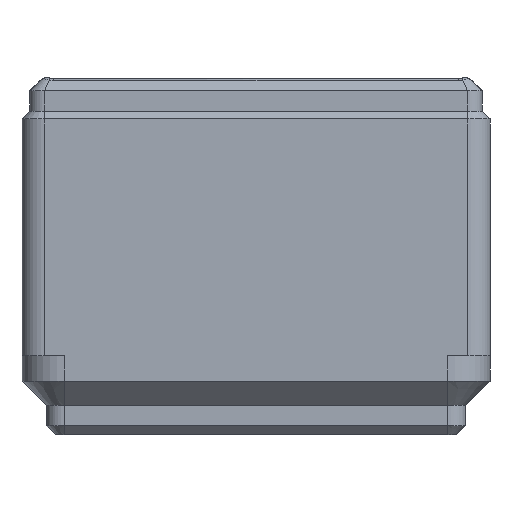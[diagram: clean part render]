
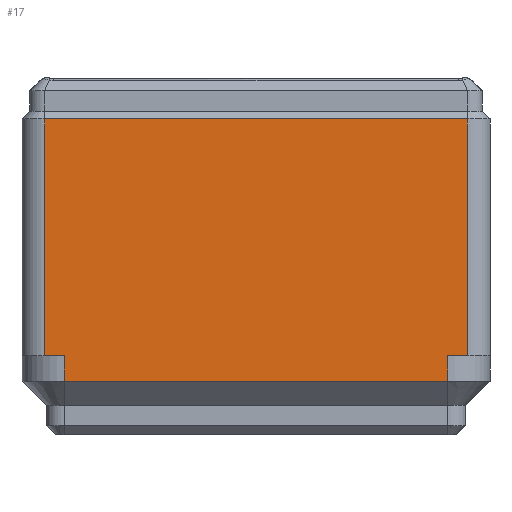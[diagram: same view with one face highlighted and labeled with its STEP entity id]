
A CAD part, left-side view. The second image highlights one B-rep face of the part: STEP entity #17.
In plain terms, the highlighted planar face has unit normal (-1, 0, 0).
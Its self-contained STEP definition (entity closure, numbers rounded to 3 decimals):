
#17 = ADVANCED_FACE('',(#18),#32,.T.);
#18 = FACE_BOUND('',#19,.T.);
#19 = EDGE_LOOP('',(#20,#55,#83,#111,#139,#167,#195,#223));
#20 = ORIENTED_EDGE('',*,*,#21,.T.);
#21 = EDGE_CURVE('',#22,#24,#26,.T.);
#22 = VERTEX_POINT('',#23);
#23 = CARTESIAN_POINT('',(0.,2.,7.));
#24 = VERTEX_POINT('',#25);
#25 = CARTESIAN_POINT('',(0.,2.,28.));
#26 = SURFACE_CURVE('',#27,(#31,#43),.PCURVE_S1.);
#27 = LINE('',#28,#29);
#28 = CARTESIAN_POINT('',(0.,2.,7.));
#29 = VECTOR('',#30,1.);
#30 = DIRECTION('',(0.,0.,1.));
#31 = PCURVE('',#32,#37);
#32 = PLANE('',#33);
#33 = AXIS2_PLACEMENT_3D('',#34,#35,#36);
#34 = CARTESIAN_POINT('',(0.,2.,7.));
#35 = DIRECTION('',(-1.,0.,0.));
#36 = DIRECTION('',(0.,1.,0.));
#37 = DEFINITIONAL_REPRESENTATION('',(#38),#42);
#38 = LINE('',#39,#40);
#39 = CARTESIAN_POINT('',(0.,0.));
#40 = VECTOR('',#41,1.);
#41 = DIRECTION('',(0.,-1.));
#42 = ( GEOMETRIC_REPRESENTATION_CONTEXT(2) 
PARAMETRIC_REPRESENTATION_CONTEXT() REPRESENTATION_CONTEXT('2D SPACE',''
  ) );
#43 = PCURVE('',#44,#49);
#44 = CYLINDRICAL_SURFACE('',#45,2.);
#45 = AXIS2_PLACEMENT_3D('',#46,#47,#48);
#46 = CARTESIAN_POINT('',(2.,2.,7.));
#47 = DIRECTION('',(-0.,-0.,-1.));
#48 = DIRECTION('',(1.,0.,0.));
#49 = DEFINITIONAL_REPRESENTATION('',(#50),#54);
#50 = LINE('',#51,#52);
#51 = CARTESIAN_POINT('',(-3.142,0.));
#52 = VECTOR('',#53,1.);
#53 = DIRECTION('',(-0.,-1.));
#54 = ( GEOMETRIC_REPRESENTATION_CONTEXT(2) 
PARAMETRIC_REPRESENTATION_CONTEXT() REPRESENTATION_CONTEXT('2D SPACE',''
  ) );
#55 = ORIENTED_EDGE('',*,*,#56,.T.);
#56 = EDGE_CURVE('',#24,#57,#59,.T.);
#57 = VERTEX_POINT('',#58);
#58 = CARTESIAN_POINT('',(0.,39.5,28.));
#59 = SURFACE_CURVE('',#60,(#64,#71),.PCURVE_S1.);
#60 = LINE('',#61,#62);
#61 = CARTESIAN_POINT('',(0.,20.75,28.));
#62 = VECTOR('',#63,1.);
#63 = DIRECTION('',(0.,1.,0.));
#64 = PCURVE('',#32,#65);
#65 = DEFINITIONAL_REPRESENTATION('',(#66),#70);
#66 = LINE('',#67,#68);
#67 = CARTESIAN_POINT('',(18.75,-21.));
#68 = VECTOR('',#69,1.);
#69 = DIRECTION('',(1.,0.));
#70 = ( GEOMETRIC_REPRESENTATION_CONTEXT(2) 
PARAMETRIC_REPRESENTATION_CONTEXT() REPRESENTATION_CONTEXT('2D SPACE',''
  ) );
#71 = PCURVE('',#72,#77);
#72 = PLANE('',#73);
#73 = AXIS2_PLACEMENT_3D('',#74,#75,#76);
#74 = CARTESIAN_POINT('',(0.7,20.75,28.7));
#75 = DIRECTION('',(-0.707,0.,0.707));
#76 = DIRECTION('',(-0.,-1.,0.));
#77 = DEFINITIONAL_REPRESENTATION('',(#78),#82);
#78 = LINE('',#79,#80);
#79 = CARTESIAN_POINT('',(0.,-0.99));
#80 = VECTOR('',#81,1.);
#81 = DIRECTION('',(-1.,0.));
#82 = ( GEOMETRIC_REPRESENTATION_CONTEXT(2) 
PARAMETRIC_REPRESENTATION_CONTEXT() REPRESENTATION_CONTEXT('2D SPACE',''
  ) );
#83 = ORIENTED_EDGE('',*,*,#84,.F.);
#84 = EDGE_CURVE('',#85,#57,#87,.T.);
#85 = VERTEX_POINT('',#86);
#86 = CARTESIAN_POINT('',(0.,39.5,7.));
#87 = SURFACE_CURVE('',#88,(#92,#99),.PCURVE_S1.);
#88 = LINE('',#89,#90);
#89 = CARTESIAN_POINT('',(0.,39.5,7.));
#90 = VECTOR('',#91,1.);
#91 = DIRECTION('',(0.,0.,1.));
#92 = PCURVE('',#32,#93);
#93 = DEFINITIONAL_REPRESENTATION('',(#94),#98);
#94 = LINE('',#95,#96);
#95 = CARTESIAN_POINT('',(37.5,0.));
#96 = VECTOR('',#97,1.);
#97 = DIRECTION('',(0.,-1.));
#98 = ( GEOMETRIC_REPRESENTATION_CONTEXT(2) 
PARAMETRIC_REPRESENTATION_CONTEXT() REPRESENTATION_CONTEXT('2D SPACE',''
  ) );
#99 = PCURVE('',#100,#105);
#100 = CYLINDRICAL_SURFACE('',#101,2.);
#101 = AXIS2_PLACEMENT_3D('',#102,#103,#104);
#102 = CARTESIAN_POINT('',(2.,39.5,7.));
#103 = DIRECTION('',(-0.,-0.,-1.));
#104 = DIRECTION('',(1.,0.,0.));
#105 = DEFINITIONAL_REPRESENTATION('',(#106),#110);
#106 = LINE('',#107,#108);
#107 = CARTESIAN_POINT('',(-3.142,0.));
#108 = VECTOR('',#109,1.);
#109 = DIRECTION('',(-0.,-1.));
#110 = ( GEOMETRIC_REPRESENTATION_CONTEXT(2) 
PARAMETRIC_REPRESENTATION_CONTEXT() REPRESENTATION_CONTEXT('2D SPACE',''
  ) );
#111 = ORIENTED_EDGE('',*,*,#112,.F.);
#112 = EDGE_CURVE('',#113,#85,#115,.T.);
#113 = VERTEX_POINT('',#114);
#114 = CARTESIAN_POINT('',(0.,37.75,7.));
#115 = SURFACE_CURVE('',#116,(#120,#127),.PCURVE_S1.);
#116 = LINE('',#117,#118);
#117 = CARTESIAN_POINT('',(0.,20.75,7.));
#118 = VECTOR('',#119,1.);
#119 = DIRECTION('',(0.,1.,0.));
#120 = PCURVE('',#32,#121);
#121 = DEFINITIONAL_REPRESENTATION('',(#122),#126);
#122 = LINE('',#123,#124);
#123 = CARTESIAN_POINT('',(18.75,0.));
#124 = VECTOR('',#125,1.);
#125 = DIRECTION('',(1.,0.));
#126 = ( GEOMETRIC_REPRESENTATION_CONTEXT(2) 
PARAMETRIC_REPRESENTATION_CONTEXT() REPRESENTATION_CONTEXT('2D SPACE',''
  ) );
#127 = PCURVE('',#128,#133);
#128 = PLANE('',#129);
#129 = AXIS2_PLACEMENT_3D('',#130,#131,#132);
#130 = CARTESIAN_POINT('',(41.75,20.75,7.));
#131 = DIRECTION('',(0.,0.,1.));
#132 = DIRECTION('',(1.,0.,-0.));
#133 = DEFINITIONAL_REPRESENTATION('',(#134),#138);
#134 = LINE('',#135,#136);
#135 = CARTESIAN_POINT('',(-41.75,0.));
#136 = VECTOR('',#137,1.);
#137 = DIRECTION('',(0.,1.));
#138 = ( GEOMETRIC_REPRESENTATION_CONTEXT(2) 
PARAMETRIC_REPRESENTATION_CONTEXT() REPRESENTATION_CONTEXT('2D SPACE',''
  ) );
#139 = ORIENTED_EDGE('',*,*,#140,.F.);
#140 = EDGE_CURVE('',#141,#113,#143,.T.);
#141 = VERTEX_POINT('',#142);
#142 = CARTESIAN_POINT('',(0.,37.75,4.75));
#143 = SURFACE_CURVE('',#144,(#148,#155),.PCURVE_S1.);
#144 = LINE('',#145,#146);
#145 = CARTESIAN_POINT('',(0.,37.75,4.75));
#146 = VECTOR('',#147,1.);
#147 = DIRECTION('',(0.,0.,1.));
#148 = PCURVE('',#32,#149);
#149 = DEFINITIONAL_REPRESENTATION('',(#150),#154);
#150 = LINE('',#151,#152);
#151 = CARTESIAN_POINT('',(35.75,2.25));
#152 = VECTOR('',#153,1.);
#153 = DIRECTION('',(0.,-1.));
#154 = ( GEOMETRIC_REPRESENTATION_CONTEXT(2) 
PARAMETRIC_REPRESENTATION_CONTEXT() REPRESENTATION_CONTEXT('2D SPACE',''
  ) );
#155 = PCURVE('',#156,#161);
#156 = CYLINDRICAL_SURFACE('',#157,3.75);
#157 = AXIS2_PLACEMENT_3D('',#158,#159,#160);
#158 = CARTESIAN_POINT('',(3.75,37.75,4.75));
#159 = DIRECTION('',(-0.,-0.,-1.));
#160 = DIRECTION('',(1.,0.,0.));
#161 = DEFINITIONAL_REPRESENTATION('',(#162),#166);
#162 = LINE('',#163,#164);
#163 = CARTESIAN_POINT('',(-3.142,0.));
#164 = VECTOR('',#165,1.);
#165 = DIRECTION('',(-0.,-1.));
#166 = ( GEOMETRIC_REPRESENTATION_CONTEXT(2) 
PARAMETRIC_REPRESENTATION_CONTEXT() REPRESENTATION_CONTEXT('2D SPACE',''
  ) );
#167 = ORIENTED_EDGE('',*,*,#168,.F.);
#168 = EDGE_CURVE('',#169,#141,#171,.T.);
#169 = VERTEX_POINT('',#170);
#170 = CARTESIAN_POINT('',(0.,3.75,4.75));
#171 = SURFACE_CURVE('',#172,(#176,#183),.PCURVE_S1.);
#172 = LINE('',#173,#174);
#173 = CARTESIAN_POINT('',(0.,20.75,4.75));
#174 = VECTOR('',#175,1.);
#175 = DIRECTION('',(0.,1.,0.));
#176 = PCURVE('',#32,#177);
#177 = DEFINITIONAL_REPRESENTATION('',(#178),#182);
#178 = LINE('',#179,#180);
#179 = CARTESIAN_POINT('',(18.75,2.25));
#180 = VECTOR('',#181,1.);
#181 = DIRECTION('',(1.,0.));
#182 = ( GEOMETRIC_REPRESENTATION_CONTEXT(2) 
PARAMETRIC_REPRESENTATION_CONTEXT() REPRESENTATION_CONTEXT('2D SPACE',''
  ) );
#183 = PCURVE('',#184,#189);
#184 = PLANE('',#185);
#185 = AXIS2_PLACEMENT_3D('',#186,#187,#188);
#186 = CARTESIAN_POINT('',(0.,20.75,4.75));
#187 = DIRECTION('',(-0.707,0.,-0.707));
#188 = DIRECTION('',(0.,-1.,-0.));
#189 = DEFINITIONAL_REPRESENTATION('',(#190),#194);
#190 = LINE('',#191,#192);
#191 = CARTESIAN_POINT('',(0.,0.));
#192 = VECTOR('',#193,1.);
#193 = DIRECTION('',(-1.,0.));
#194 = ( GEOMETRIC_REPRESENTATION_CONTEXT(2) 
PARAMETRIC_REPRESENTATION_CONTEXT() REPRESENTATION_CONTEXT('2D SPACE',''
  ) );
#195 = ORIENTED_EDGE('',*,*,#196,.T.);
#196 = EDGE_CURVE('',#169,#197,#199,.T.);
#197 = VERTEX_POINT('',#198);
#198 = CARTESIAN_POINT('',(0.,3.75,7.));
#199 = SURFACE_CURVE('',#200,(#204,#211),.PCURVE_S1.);
#200 = LINE('',#201,#202);
#201 = CARTESIAN_POINT('',(0.,3.75,4.75));
#202 = VECTOR('',#203,1.);
#203 = DIRECTION('',(0.,0.,1.));
#204 = PCURVE('',#32,#205);
#205 = DEFINITIONAL_REPRESENTATION('',(#206),#210);
#206 = LINE('',#207,#208);
#207 = CARTESIAN_POINT('',(1.75,2.25));
#208 = VECTOR('',#209,1.);
#209 = DIRECTION('',(0.,-1.));
#210 = ( GEOMETRIC_REPRESENTATION_CONTEXT(2) 
PARAMETRIC_REPRESENTATION_CONTEXT() REPRESENTATION_CONTEXT('2D SPACE',''
  ) );
#211 = PCURVE('',#212,#217);
#212 = CYLINDRICAL_SURFACE('',#213,3.75);
#213 = AXIS2_PLACEMENT_3D('',#214,#215,#216);
#214 = CARTESIAN_POINT('',(3.75,3.75,4.75));
#215 = DIRECTION('',(-0.,-0.,-1.));
#216 = DIRECTION('',(1.,0.,0.));
#217 = DEFINITIONAL_REPRESENTATION('',(#218),#222);
#218 = LINE('',#219,#220);
#219 = CARTESIAN_POINT('',(-3.142,0.));
#220 = VECTOR('',#221,1.);
#221 = DIRECTION('',(-0.,-1.));
#222 = ( GEOMETRIC_REPRESENTATION_CONTEXT(2) 
PARAMETRIC_REPRESENTATION_CONTEXT() REPRESENTATION_CONTEXT('2D SPACE',''
  ) );
#223 = ORIENTED_EDGE('',*,*,#224,.F.);
#224 = EDGE_CURVE('',#22,#197,#225,.T.);
#225 = SURFACE_CURVE('',#226,(#230,#237),.PCURVE_S1.);
#226 = LINE('',#227,#228);
#227 = CARTESIAN_POINT('',(0.,20.75,7.));
#228 = VECTOR('',#229,1.);
#229 = DIRECTION('',(0.,1.,0.));
#230 = PCURVE('',#32,#231);
#231 = DEFINITIONAL_REPRESENTATION('',(#232),#236);
#232 = LINE('',#233,#234);
#233 = CARTESIAN_POINT('',(18.75,0.));
#234 = VECTOR('',#235,1.);
#235 = DIRECTION('',(1.,0.));
#236 = ( GEOMETRIC_REPRESENTATION_CONTEXT(2) 
PARAMETRIC_REPRESENTATION_CONTEXT() REPRESENTATION_CONTEXT('2D SPACE',''
  ) );
#237 = PCURVE('',#238,#243);
#238 = PLANE('',#239);
#239 = AXIS2_PLACEMENT_3D('',#240,#241,#242);
#240 = CARTESIAN_POINT('',(41.75,20.75,7.));
#241 = DIRECTION('',(0.,0.,1.));
#242 = DIRECTION('',(1.,0.,-0.));
#243 = DEFINITIONAL_REPRESENTATION('',(#244),#248);
#244 = LINE('',#245,#246);
#245 = CARTESIAN_POINT('',(-41.75,0.));
#246 = VECTOR('',#247,1.);
#247 = DIRECTION('',(0.,1.));
#248 = ( GEOMETRIC_REPRESENTATION_CONTEXT(2) 
PARAMETRIC_REPRESENTATION_CONTEXT() REPRESENTATION_CONTEXT('2D SPACE',''
  ) );
